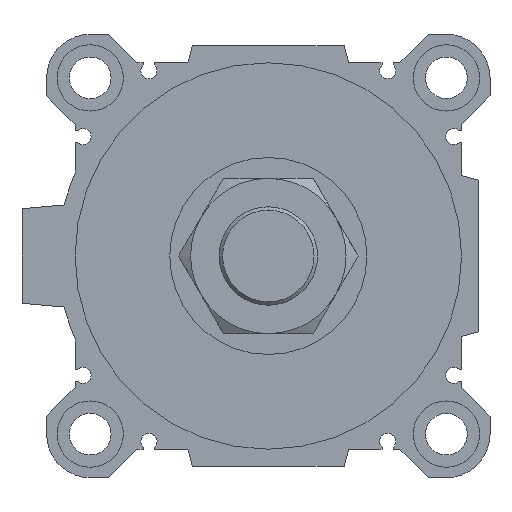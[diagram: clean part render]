
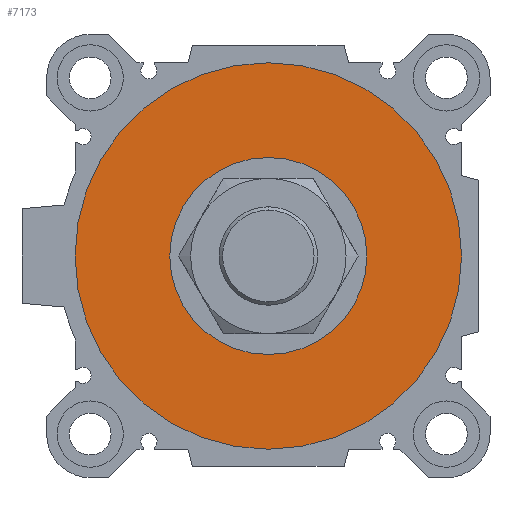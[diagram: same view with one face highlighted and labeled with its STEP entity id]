
A CAD part, left-side view. The second image highlights one B-rep face of the part: STEP entity #7173.
In plain terms, the highlighted planar face has unit normal (-1, 0, 0).
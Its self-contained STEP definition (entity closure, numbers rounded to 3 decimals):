
#84 = DIRECTION ( 'NONE',  ( 0., 0., -1. ) ) ;
#124 = DIRECTION ( 'NONE',  ( 0., 0., -1. ) ) ;
#358 = VERTEX_POINT ( 'NONE', #772 ) ;
#605 = CIRCLE ( 'NONE', #6077, 51. ) ;
#695 = EDGE_CURVE ( 'NONE', #2832, #3521, #605, .T. ) ;
#772 = CARTESIAN_POINT ( 'NONE',  ( 6.5, 0., -26. ) ) ;
#794 = DIRECTION ( 'NONE',  ( 1., 0., 0. ) ) ;
#1185 = CARTESIAN_POINT ( 'NONE',  ( 6.5, 0., 51. ) ) ;
#1310 = DIRECTION ( 'NONE',  ( 1., 0., 0. ) ) ;
#1390 = DIRECTION ( 'NONE',  ( 0., 0., -1. ) ) ;
#1397 = CARTESIAN_POINT ( 'NONE',  ( 6.5, 0., 0. ) ) ;
#1462 = ORIENTED_EDGE ( 'NONE', *, *, #695, .F. ) ;
#2415 = CIRCLE ( 'NONE', #6867, 26. ) ;
#2463 = CARTESIAN_POINT ( 'NONE',  ( 6.5, 0., 0. ) ) ;
#2581 = CARTESIAN_POINT ( 'NONE',  ( 6.5, 0., 0. ) ) ;
#2633 = VERTEX_POINT ( 'NONE', #5050 ) ;
#2667 = EDGE_LOOP ( 'NONE', ( #7070, #5388 ) ) ;
#2832 = VERTEX_POINT ( 'NONE', #1185 ) ;
#2866 = AXIS2_PLACEMENT_3D ( 'NONE', #6159, #4919, #6672 ) ;
#3521 = VERTEX_POINT ( 'NONE', #6670 ) ;
#3563 = AXIS2_PLACEMENT_3D ( 'NONE', #1397, #5665, #124 ) ;
#3576 = AXIS2_PLACEMENT_3D ( 'NONE', #2463, #794, #1390 ) ;
#4102 = ORIENTED_EDGE ( 'NONE', *, *, #4940, .F. ) ;
#4417 = DIRECTION ( 'NONE',  ( 1., 0., 0. ) ) ;
#4846 = CIRCLE ( 'NONE', #3576, 26. ) ;
#4879 = FACE_OUTER_BOUND ( 'NONE', #5696, .T. ) ;
#4919 = DIRECTION ( 'NONE',  ( 1., 0., 0. ) ) ;
#4940 = EDGE_CURVE ( 'NONE', #3521, #2832, #4964, .T. ) ;
#4964 = CIRCLE ( 'NONE', #3563, 51. ) ;
#4979 = EDGE_CURVE ( 'NONE', #2633, #358, #2415, .T. ) ;
#5012 = DIRECTION ( 'NONE',  ( 0., 0., -1. ) ) ;
#5050 = CARTESIAN_POINT ( 'NONE',  ( 6.5, 0., 26. ) ) ;
#5257 = EDGE_CURVE ( 'NONE', #358, #2633, #4846, .T. ) ;
#5388 = ORIENTED_EDGE ( 'NONE', *, *, #5257, .T. ) ;
#5544 = CARTESIAN_POINT ( 'NONE',  ( 6.5, 0., 0. ) ) ;
#5595 = FACE_BOUND ( 'NONE', #2667, .T. ) ;
#5665 = DIRECTION ( 'NONE',  ( 1., 0., 0. ) ) ;
#5696 = EDGE_LOOP ( 'NONE', ( #1462, #4102 ) ) ;
#6077 = AXIS2_PLACEMENT_3D ( 'NONE', #2581, #1310, #5012 ) ;
#6119 = PLANE ( 'NONE',  #2866 ) ;
#6159 = CARTESIAN_POINT ( 'NONE',  ( 6.5, 0., 0. ) ) ;
#6670 = CARTESIAN_POINT ( 'NONE',  ( 6.5, 0., -51. ) ) ;
#6672 = DIRECTION ( 'NONE',  ( 0., 1., 0. ) ) ;
#6867 = AXIS2_PLACEMENT_3D ( 'NONE', #5544, #4417, #84 ) ;
#7070 = ORIENTED_EDGE ( 'NONE', *, *, #4979, .T. ) ;
#7173 = ADVANCED_FACE ( 'NONE', ( #4879, #5595 ), #6119, .F. ) ;
